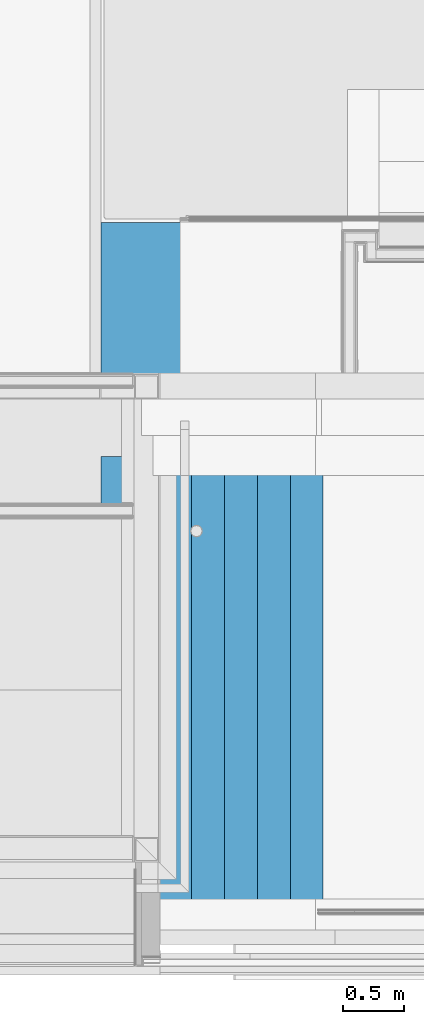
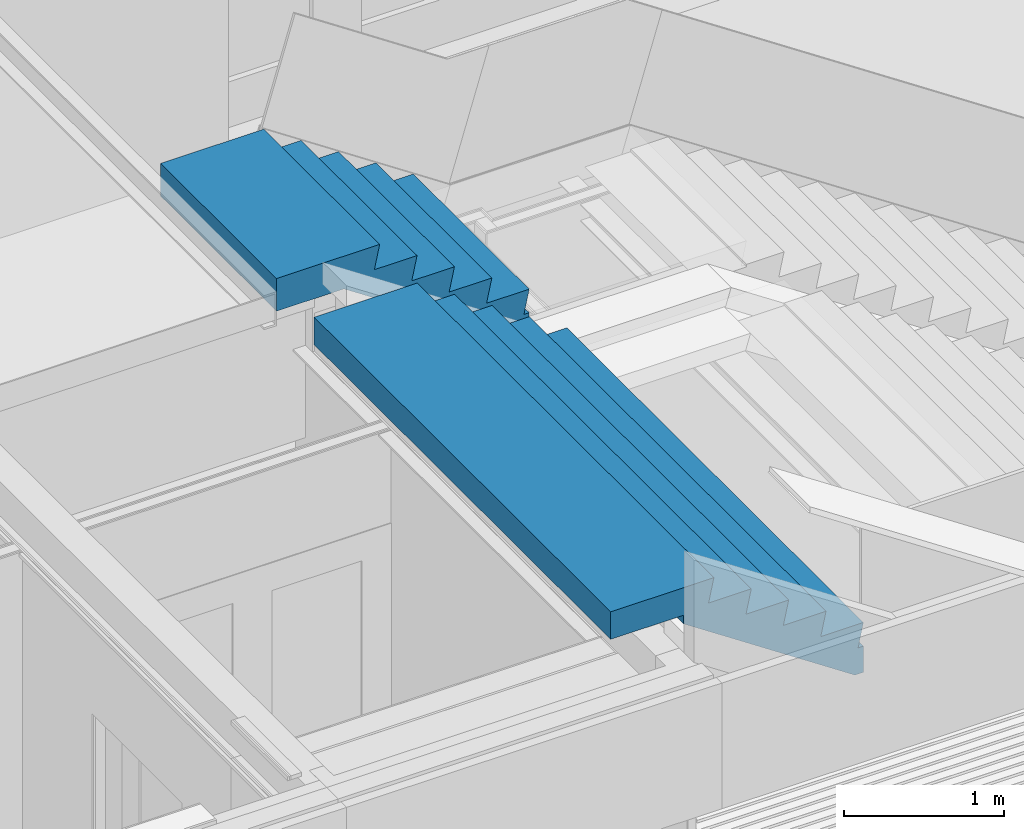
# One storey, part 27 of 165: 2 stair flights, 2 elements without a shape of their own.
"""IFC2X3 building model written with IfcOpenShell, lengths in millimetres."""

from ifc_helpers import new_model, entity, si_unit, converted_unit, derived_unit, money_unit, direction, frame, origin_with_axes, place, context, subcontext, project, spatial, faceted_brep, material, type_object, element, aggregate, save


model = new_model("IFC2X3")

# Units and contexts
model_context = context("Model", 3, precision=0.01, world=origin_with_axes(), true_north=direction((0.0, 1.0)))
body_context = subcontext(model_context, "Body", "Model", "MODEL_VIEW")
ifc_project = project(units=[si_unit("LENGTHUNIT", "METRE", prefix="MILLI"), si_unit("AREAUNIT", "SQUARE_METRE"), si_unit("VOLUMEUNIT", "CUBIC_METRE"), converted_unit("PLANEANGLEUNIT", "DEGREE", entity("IfcPlaneAngleMeasure", 0.0174532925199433), si_unit("PLANEANGLEUNIT", "RADIAN"), dimensions=[0, 0, 0, 0, 0, 0, 0]), money_unit("EUR"), converted_unit("TIMEUNIT", "Year", entity("IfcTimeMeasure", 31556926.0), si_unit("TIMEUNIT", "SECOND"), dimensions=[0, 0, 1, 0, 0, 0, 0]), si_unit("MASSUNIT", "GRAM", prefix="KILO"), si_unit("THERMODYNAMICTEMPERATUREUNIT", "DEGREE_CELSIUS"), si_unit("LUMINOUSINTENSITYUNIT", "LUMEN"), si_unit("ENERGYUNIT", "JOULE", prefix="MEGA"), derived_unit("THERMALCONDUCTANCEUNIT", [(si_unit("POWERUNIT", "WATT"), 1), (si_unit("LENGTHUNIT", "METRE"), -1), (si_unit("THERMODYNAMICTEMPERATUREUNIT", "KELVIN"), -1)]), derived_unit("SPECIFICHEATCAPACITYUNIT", [(si_unit("ENERGYUNIT", "JOULE"), 1), (si_unit("MASSUNIT", "GRAM", prefix="KILO"), -1), (si_unit("THERMODYNAMICTEMPERATUREUNIT", "KELVIN"), -1)]), derived_unit("MASSDENSITYUNIT", [(si_unit("MASSUNIT", "GRAM", prefix="KILO"), 1), (si_unit("VOLUMEUNIT", "CUBIC_METRE"), -1)])], contexts=[model_context])

# Site, building, storey
site_placement = place(None, origin_with_axes())
site = spatial("IfcSite", under=ifc_project, at=site_placement, Name="Site", CompositionType="ELEMENT")
building_placement = place(site_placement, origin_with_axes())
building = spatial("IfcBuilding", under=site, at=building_placement, Name="Naam gebouw", CompositionType="ELEMENT")
storey_placement = place(building_placement, origin_with_axes())
storey = spatial("IfcBuildingStorey", under=building, at=storey_placement, Name="Begane grond", CompositionType="ELEMENT", Elevation=0.0)

# Stair, stair flight
stair_1_placement = place(storey_placement, frame((18790.00009135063, 299.9999999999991, -10.00000000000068), z_axis=(0.0, 0.0, 1.0), x_axis=(1.0, 0.0, 0.0)))
stair_1 = element("IfcStair", 1, at=stair_1_placement, inside=storey, Name="24_Trap-x", ShapeType="NOTDEFINED")
ifc_material = material(Name="Beton gewapend prefab")
stair_flight_type = type_object("IfcStairFlightType", Name="IfcStairFlight", PredefinedType="NOTDEFINED")
stair_flight_1_placement = place(stair_1_placement, origin_with_axes())
stair_flight_1 = element("IfcStairFlight", 2, at=stair_flight_1_placement, type_object=stair_flight_type, material=ifc_material, Name="24_Trapconstructie-x", context=body_context, shape_type="Brep", body=[
    faceted_brep([(-7190.000091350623, 3709.999757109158, 3750.0), (-7715.00028672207, 3709.999772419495, 3750.0), (-7715.000178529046, 3709.999772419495, 3960.0), (-6970.000178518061, 3709.999750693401, 3960.0), (-7008.260522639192, 3709.99975180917, 3780.0), (-6700.00017851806, 3709.999742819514, 3780.0), (-6738.260522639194, 3709.999743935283, 3600.0), (-6430.000178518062, 3709.999734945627, 3600.0), (-6468.260522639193, 3709.99973703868, 3420.0), (-6160.000176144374, 3709.999727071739, 3420.0), (-6198.260520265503, 3709.999730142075, 3240.0), (-5890.000166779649, 3709.999727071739, 3239.999746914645), (-5928.2602940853, 3709.999730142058, 3060.0), (-5890.000166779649, 3709.999727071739, 3060.0), (-5890.00016677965, 3709.999769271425, 2860.0), (-5952.759896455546, 3709.999778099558, 2860.0), (-5980.000169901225, 3709.999778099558, 2878.160177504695), (-6025.000171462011, 3709.999778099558, 2908.160170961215), (-6070.000173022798, 3709.999778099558, 2938.160164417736), (-6115.000174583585, 3709.999778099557, 2968.160158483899), (-6160.000176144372, 3709.999750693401, 2998.160152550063), (-6205.000176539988, 3709.999752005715, 3028.160149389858), (-6250.000176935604, 3709.99975331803, 3058.160146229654), (-6295.000177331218, 3709.999754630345, 3088.160143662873), (-6340.000177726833, 3709.999755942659, 3118.160141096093), (-6385.000178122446, 3709.999757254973, 3148.160138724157), (-6430.000178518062, 3709.9997506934, 3178.160136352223), (-6475.000178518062, 3709.999752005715, 3208.160136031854), (-6520.000178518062, 3709.999753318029, 3238.160135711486), (-6565.000178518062, 3709.999754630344, 3268.160135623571), (-6610.000178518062, 3709.999755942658, 3298.160135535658), (-6655.000178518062, 3709.999757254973, 3328.160135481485), (-6700.00017851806, 3709.9997506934, 3358.160135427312), (-6745.000178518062, 3709.999752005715, 3388.160135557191), (-6790.00017851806, 3709.999753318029, 3418.160135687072), (-6835.000178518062, 3709.999754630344, 3448.160135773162), (-6880.000178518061, 3709.999755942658, 3478.160135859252), (-6925.000178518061, 3709.999757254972, 3508.160135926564), (-6970.000178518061, 3709.999750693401, 3538.160135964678), (-7060.000178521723, 3709.999753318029, 3598.16013604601), (-7150.000178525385, 3709.999755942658, 3658.160136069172), (-7190.000091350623, 3709.999757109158, 3684.826744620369), (-7190.000091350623, -0.0002428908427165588, 3750.0), (-7715.00028672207, -0.0002275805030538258, 3750.0), (-7715.000286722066, -0.0002275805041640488, 3960.0), (-6970.000286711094, -0.000249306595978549, 3960.0), (-7008.260630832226, -0.0002481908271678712, 3780.0), (-6700.000286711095, -0.0002571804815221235, 3780.0), (-6738.260630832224, -0.0002571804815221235, 3600.0), (-6430.000286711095, -0.000265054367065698, 3600.0), (-6468.260630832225, -0.000265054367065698, 3420.0), (-6160.000286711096, -0.0002729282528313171, 3420.0), (-6198.260628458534, -0.0002729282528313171, 3240.0), (-5890.000000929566, -0.0002808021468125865, 3240.0), (-5928.260183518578, -0.0002808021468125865, 3060.0), (-5890.000000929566, -0.0002808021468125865, 3060.0), (-5890.000000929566, -0.0002808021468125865, 2860.0), (-5952.759851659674, 2229.301360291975, 2860.0), (-5952.759864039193, 2717.364860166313, 2860.0), (-5952.759890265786, 3465.967981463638, 2860.0), (-5952.759780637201, -0.0002808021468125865, 2860.0), (-5952.759786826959, 244.0313573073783, 2860.0), (-5952.759813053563, 992.6347391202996, 2860.0), (-5952.759825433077, 1480.698108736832, 2860.0), (-5980.000157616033, 3091.666434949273, 2878.160179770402), (-6070.000176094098, 3091.666434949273, 2938.160169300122), (-6160.00019457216, 3091.666411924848, 2998.16016069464), (-6250.000195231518, 3091.666414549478, 3058.16015104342), (-6340.000195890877, 3091.666417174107, 3118.160143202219), (-6430.000196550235, 3091.666413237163, 3178.160135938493), (-6520.000196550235, 3091.666415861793, 3238.160135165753), (-6610.000196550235, 3091.666418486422, 3298.160135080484), (-6700.000196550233, 3091.666414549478, 3358.160135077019), (-6790.000196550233, 3091.666417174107, 3418.160135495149), (-6880.000196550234, 3091.666419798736, 3478.160135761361), (-6970.000196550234, 3091.666422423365, 3538.160135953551), (-6970.000232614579, 1854.99975013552, 3538.160135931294), (-6970.000268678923, 618.3330778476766, 3538.160135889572), (-6970.000286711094, -0.0002582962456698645, 3538.160135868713), (-7060.000286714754, -0.0002556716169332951, 3598.160136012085), (-7150.000286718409, -0.0002530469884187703, 3658.16013607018), (-7190.000091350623, -0.00025044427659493, 3684.826672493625), (-6925.000286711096, -0.0002596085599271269, 3508.160135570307), (-6880.000286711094, -0.0002609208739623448, 3478.160135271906), (-6835.000286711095, -0.0002622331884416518, 3448.160134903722), (-6790.000286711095, -0.0002635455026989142, 3418.160134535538), (-6745.000286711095, -0.0002648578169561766, 3388.160133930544), (-6700.000286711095, -0.000266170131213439, 3358.16013332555), (-6655.000286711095, -0.0002674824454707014, 3328.160133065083), (-6610.000286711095, -0.0002687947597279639, 3298.160132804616), (-6565.000286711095, -0.0002701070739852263, 3268.160132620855), (-6520.000286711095, -0.0002714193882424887, 3238.160132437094), (-6475.000286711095, -0.0002727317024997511, 3208.160133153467), (-6430.000286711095, -0.0002740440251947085, 3178.160133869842), (-6385.000286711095, -0.0002753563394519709, 3148.160143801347), (-6340.000286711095, -0.0002766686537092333, 3118.160153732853), (-6295.000286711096, -0.0002779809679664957, 3088.160164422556), (-6250.000286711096, -0.0002792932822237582, 3058.160175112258), (-6205.000286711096, -0.0002806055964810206, 3028.160188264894), (-6160.000286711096, -0.0002819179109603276, 2998.160201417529), (-6115.00023908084, -0.0002808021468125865, 2968.160197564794), (-6070.000191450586, -0.0002808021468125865, 2938.160193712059), (-6025.000143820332, -0.0002808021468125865, 2908.160192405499), (-5980.000096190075, -0.0002808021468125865, 2878.160191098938), (-5980.00013304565, 1854.999748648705, 2878.160184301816), (-5980.000108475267, 618.3330623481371, 2878.16018883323), (-6025.00016224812, 2473.33309179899, 2908.160178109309), (-6115.00019608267, 2473.333091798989, 2968.160171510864), (-6205.000213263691, 2473.333074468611, 3028.160162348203), (-6295.000213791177, 2473.33307709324, 3088.160150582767), (-6385.000214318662, 2473.333079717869, 3148.160140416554), (-6475.000214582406, 2473.333077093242, 3208.160135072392), (-6565.000214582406, 2473.333079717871, 3268.160134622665), (-6655.000214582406, 2473.3330823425, 3328.160134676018), (-6745.000214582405, 2473.333079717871, 3388.160135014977), (-6835.000214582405, 2473.3330823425, 3448.160135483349), (-6925.000214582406, 2473.333084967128, 3508.160135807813), (-6925.00025064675, 1236.666412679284, 3508.160135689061), (-6880.000268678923, 618.333075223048, 3478.160135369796), (-6790.000268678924, 618.3330725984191, 3418.160134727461), (-6700.000268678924, 618.3330699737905, 3358.160133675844), (-6610.000268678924, 618.3330686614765, 3298.16013325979), (-6520.000268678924, 618.3330660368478, 3238.160132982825), (-6430.000268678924, 618.3330634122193, 3178.160134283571), (-6340.000268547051, 618.3330620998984, 3118.160151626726), (-6250.00026841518, 618.3330594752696, 3058.16017029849), (-6160.000268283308, 618.3330568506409, 2998.160193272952), (-6070.000188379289, 618.3330623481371, 2938.160188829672), (-6025.000153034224, 1236.666405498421, 2908.160185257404), (-6070.000182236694, 1854.999748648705, 2938.160179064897), (-6160.000231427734, 1854.999734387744, 2998.160176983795), (-6250.00023182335, 1854.999737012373, 3058.160160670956), (-6340.000232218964, 1854.999739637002, 3118.160147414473), (-6430.000232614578, 1854.999738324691, 3178.160135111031), (-6520.000232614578, 1854.99974094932, 3238.160134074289), (-6610.000232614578, 1854.999743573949, 3298.160134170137), (-6700.000232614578, 1854.999742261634, 3358.160134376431), (-6790.000232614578, 1854.999744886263, 3418.160135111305), (-6880.000232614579, 1854.999747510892, 3478.160135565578), (-6835.000250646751, 1236.666410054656, 3448.160135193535), (-6745.000250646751, 1236.666407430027, 3388.16013447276), (-6655.000250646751, 1236.666407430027, 3328.16013387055), (-6565.000250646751, 1236.666404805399, 3268.16013362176), (-6475.000250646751, 1236.66640218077, 3208.160134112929), (-6385.00025051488, 1236.666402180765, 3148.160142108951), (-6295.000250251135, 1236.666399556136, 3088.160157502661), (-6205.000249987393, 1236.666396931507, 3028.160175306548), (-6115.000217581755, 1236.666405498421, 2968.160184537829)], [[[0, 1, 2, 3, 4, 5, 6, 7, 8, 9, 10, 11, 12, 13, 14, 15, 16, 17, 18, 19, 20, 21, 22, 23, 24, 25, 26, 27, 28, 29, 30, 31, 32, 33, 34, 35, 36, 37, 38, 39, 40, 41]], [[1, 0, 42, 43]], [[1, 43, 44, 2]], [[2, 44, 45, 3]], [[4, 3, 45, 46]], [[5, 4, 46, 47]], [[48, 6, 5, 47]], [[7, 6, 48, 49]], [[50, 8, 7, 49]], [[9, 8, 50, 51]], [[52, 10, 9, 51]], [[11, 10, 52, 53]], [[54, 12, 11, 53]], [[54, 55, 13, 12]], [[14, 13, 55, 56]], [[57, 58, 59, 15, 14, 56, 60, 61, 62, 63]], [[16, 15, 59, 64]], [[64, 17, 16]], [[65, 18, 17]], [[65, 19, 18]], [[66, 20, 19]], [[66, 21, 20]], [[67, 22, 21]], [[67, 23, 22]], [[68, 24, 23]], [[68, 25, 24]], [[69, 26, 25]], [[69, 27, 26]], [[70, 28, 27]], [[70, 29, 28]], [[71, 30, 29]], [[71, 31, 30]], [[72, 32, 31]], [[72, 33, 32]], [[73, 34, 33]], [[73, 35, 34]], [[74, 36, 35]], [[74, 37, 36]], [[75, 38, 37]], [[76, 77, 78, 79, 39, 38, 75]], [[40, 39, 79, 80]], [[81, 41, 40, 80]], [[0, 41, 81, 42]], [[42, 81, 80, 79, 78, 82, 83, 84, 85, 86, 87, 88, 89, 90, 91, 92, 93, 94, 95, 96, 97, 98, 99, 100, 101, 102, 103, 60, 56, 55, 54, 53, 52, 51, 50, 49, 48, 47, 46, 45, 44, 43]], [[57, 104, 64, 58]], [[59, 58, 64]], [[60, 103, 105, 61]], [[62, 61, 105]], [[104, 63, 62, 105]], [[57, 63, 104]], [[64, 106, 65, 17]], [[19, 65, 107, 66]], [[66, 108, 67, 21]], [[67, 109, 68, 23]], [[25, 68, 110, 69]], [[27, 69, 111, 70]], [[70, 112, 71, 29]], [[31, 71, 113, 72]], [[72, 114, 73, 33]], [[73, 115, 74, 35]], [[37, 74, 116, 75]], [[77, 76, 117]], [[77, 82, 78]], [[75, 116, 76]], [[118, 83, 82]], [[118, 84, 83]], [[119, 85, 84]], [[119, 86, 85]], [[120, 87, 86]], [[120, 88, 87]], [[121, 89, 88]], [[121, 90, 89]], [[122, 91, 90]], [[122, 92, 91]], [[123, 93, 92]], [[123, 94, 93]], [[124, 95, 94]], [[124, 96, 95]], [[125, 97, 96]], [[125, 98, 97]], [[126, 99, 98]], [[126, 100, 99]], [[127, 101, 100]], [[127, 102, 101]], [[105, 103, 102]], [[106, 64, 104]], [[128, 104, 105]], [[129, 65, 106]], [[107, 65, 129]], [[66, 107, 130]], [[108, 66, 130]], [[131, 67, 108]], [[131, 109, 67]], [[132, 68, 109]], [[132, 110, 68]], [[69, 110, 133]], [[111, 69, 133]], [[134, 70, 111]], [[112, 70, 134]], [[71, 112, 135]], [[113, 71, 135]], [[72, 113, 136]], [[114, 72, 136]], [[137, 73, 114]], [[115, 73, 137]], [[74, 115, 138]], [[138, 116, 74]], [[138, 117, 76, 116]], [[117, 118, 82, 77]], [[139, 119, 84, 118]], [[120, 86, 119, 140]], [[141, 121, 88, 120]], [[142, 122, 90, 121]], [[123, 92, 122, 143]], [[144, 124, 94, 123]], [[145, 125, 96, 124]], [[126, 98, 125, 146]], [[127, 100, 126, 147]], [[105, 102, 127, 128]], [[106, 104, 128, 129]], [[129, 147, 130, 107]], [[130, 146, 131, 108]], [[131, 145, 132, 109]], [[132, 144, 133, 110]], [[111, 133, 143, 134]], [[134, 142, 135, 112]], [[113, 135, 141, 136]], [[114, 136, 140, 137]], [[137, 139, 138, 115]], [[117, 138, 118]], [[139, 137, 119]], [[118, 138, 139]], [[137, 140, 119]], [[120, 140, 136]], [[121, 141, 135]], [[120, 136, 141]], [[142, 134, 122]], [[121, 135, 142]], [[122, 134, 143]], [[123, 143, 133]], [[144, 132, 124]], [[133, 144, 123]], [[145, 131, 125]], [[132, 145, 124]], [[131, 146, 125]], [[126, 146, 130]], [[126, 130, 147]], [[127, 147, 129]], [[127, 129, 128]]]),
])
aggregate(stair_1, [stair_flight_1])

stair_2_placement = place(storey_placement, frame((18790.00009135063, 4480.000241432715, 0.0), z_axis=(0.0, 0.0, 1.0), x_axis=(1.0, 0.0, 0.0)))
stair_2 = element("IfcStair", 3, at=stair_2_placement, inside=storey, Name="24_Trap-x", ShapeType="NOTDEFINED")
stair_flight_2_placement = place(stair_2_placement, origin_with_axes())
stair_flight_2 = element("IfcStairFlight", 4, at=stair_flight_2_placement, type_object=stair_flight_type, material=ifc_material, Name="24_Trapconstructie-x", context=body_context, shape_type="Brep", body=[
    faceted_brep([(-7150.000054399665, 1449.999755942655, 3658.160136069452), (-7150.000096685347, -0.0002530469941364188, 3658.160136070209), (-7227.759892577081, -0.0002479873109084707, 3710.0), (-7227.759850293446, 1449.999758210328, 3710.0), (-7060.000054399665, 1449.999753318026, 3598.160136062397), (-7060.000096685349, -0.0002556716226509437, 3598.160136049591), (-7715.000096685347, -0.0002275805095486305, 3960.0), (-7715.000096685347, -0.0002275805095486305, 3710.0), (-6970.000096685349, -0.0002582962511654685, 3538.16013595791), (-6880.000096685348, -0.0002609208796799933, 3478.160135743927), (-6790.000096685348, -0.0002635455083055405, 3418.160135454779), (-6700.000096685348, -0.0002661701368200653, 3358.160135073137), (-6610.000096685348, -0.0002687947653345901, 3298.16013490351), (-6520.000096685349, -0.0002714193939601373, 3238.160134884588), (-6430.000096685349, -0.0002740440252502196, 3178.160135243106), (-6385.000096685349, -0.0002753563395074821, 3148.160138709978), (-6340.000096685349, -0.0002766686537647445, 3118.160142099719), (-6295.000096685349, -0.0002779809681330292, 3088.16014574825), (-6250.000096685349, -0.0002792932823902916, 3058.160149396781), (-6205.000096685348, -0.000280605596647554, 3028.160153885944), (-6160.000096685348, -0.0002819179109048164, 2998.160158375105), (-6115.00007980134, -0.0002808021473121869, 2968.160156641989), (-6070.000062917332, -0.0002808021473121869, 2938.160154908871), (-6025.000046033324, -0.0002808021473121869, 2908.160154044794), (-5980.000029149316, -0.0002808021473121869, 2878.16015318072), (-5952.759789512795, -0.0002808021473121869, 2860.0), (-5889.9999953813, -0.0002808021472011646, 2860.0), (-5889.9999953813, -0.0002808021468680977, 3060.0), (-5928.260182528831, -0.0002808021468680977, 3060.0), (-5889.9999953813, -0.0002808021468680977, 3240.0), (-6198.260325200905, -0.0002729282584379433, 3240.0), (-6160.000096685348, -0.0002729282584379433, 3420.0), (-6468.260326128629, -0.0002650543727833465, 3420.0), (-6430.000096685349, -0.0002650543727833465, 3600.0), (-6738.260326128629, -0.0002571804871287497, 3600.0), (-6700.000096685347, -0.0002571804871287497, 3780.0), (-7008.260326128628, -0.0002481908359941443, 3780.0), (-6970.000096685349, -0.000249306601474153, 3960.0), (-7715.000054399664, 1449.99977241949, 3710.0), (-7715.000054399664, 1449.99977241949, 3960.0), (-6970.000054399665, 1449.999750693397, 3960.0), (-7008.260283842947, 1449.999751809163, 3780.0), (-6700.000054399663, 1449.999742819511, 3780.0), (-6738.260283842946, 1449.999743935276, 3600.0), (-6430.000054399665, 1449.999734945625, 3600.0), (-6468.260283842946, 1449.999737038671, 3420.0), (-6160.000053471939, 1449.999727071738, 3420.0), (-6198.260282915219, 1449.999728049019, 3240.0), (-5890.000060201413, 1449.999727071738, 3239.999926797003), (-5928.26022574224, 1449.999728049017, 3060.0), (-5890.000060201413, 1449.999727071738, 3060.0), (-5890.000060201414, 1449.999738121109, 2860.0), (-5952.759834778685, 1449.999740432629, 2860.0), (-5980.000057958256, 1449.999740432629, 2878.160147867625), (-6025.000056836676, 1449.999740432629, 2908.160145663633), (-6070.000055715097, 1449.999740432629, 2938.160143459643), (-6115.000054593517, 1449.999740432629, 2968.160141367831), (-6160.000053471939, 1449.99973382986, 2998.16013927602), (-6205.00005362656, 1449.999735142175, 3028.160138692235), (-6250.000053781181, 1449.999736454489, 3058.160138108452), (-6295.000053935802, 1449.999737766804, 3088.160137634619), (-6340.000054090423, 1449.999739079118, 3118.160137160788), (-6385.000054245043, 1449.999740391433, 3148.160136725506), (-6430.000054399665, 1449.999734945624, 3178.160136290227), (-6520.000054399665, 1449.999737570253, 3238.160136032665), (-6610.000054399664, 1449.999740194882, 3298.160135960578), (-6700.000054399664, 1449.999742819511, 3358.160135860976), (-6790.000054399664, 1449.999753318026, 3418.160135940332), (-6880.000054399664, 1449.999755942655, 3478.160135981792), (-6970.000054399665, 1449.999750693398, 3538.16013603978), (-6430.000086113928, 362.4997298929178, 3178.160135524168), (-6430.000064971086, 1087.499737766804, 3178.160136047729), (-6340.000086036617, 362.4997272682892, 3118.160140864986), (-6250.000085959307, 362.4997246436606, 3058.160146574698), (-6160.000085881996, 362.499722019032, 2998.160153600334), (-6070.000061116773, 362.4997245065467, 2938.160152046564), (-5980.000036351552, 362.4997245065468, 2878.160151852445), (-5952.759793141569, 143.064546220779, 2860.0), (-5952.759815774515, 868.0645792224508, 2860.0), (-5952.759831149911, 1306.934881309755, 2860.0), (-5952.759808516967, 581.934893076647, 2860.0), (-5980.00005075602, 1087.499735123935, 2878.160149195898), (-6070.000057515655, 1087.499735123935, 2938.160146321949), (-6160.000064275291, 1087.499729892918, 2998.160144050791), (-6250.000064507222, 1087.499732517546, 3058.160140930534), (-6340.000064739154, 1087.499735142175, 3118.160138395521), (-6385.000075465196, 724.9997325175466, 3148.160137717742), (-6295.000075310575, 724.9997298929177, 3088.160141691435), (-6205.000075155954, 724.9997272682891, 3028.160146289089), (-6115.000067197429, 724.9997298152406, 2968.160149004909), (-6025.000051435, 724.9997298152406, 2908.160149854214)], [[[0, 1, 2, 3]], [[4, 5, 1, 0]], [[6, 7, 2, 1, 5, 8, 9, 10, 11, 12, 13, 14, 15, 16, 17, 18, 19, 20, 21, 22, 23, 24, 25, 26, 27, 28, 29, 30, 31, 32, 33, 34, 35, 36, 37]], [[7, 38, 3, 2]], [[4, 0, 3, 38, 39, 40, 41, 42, 43, 44, 45, 46, 47, 48, 49, 50, 51, 52, 53, 54, 55, 56, 57, 58, 59, 60, 61, 62, 63, 64, 65, 66, 67, 68, 69]], [[69, 8, 5, 4]], [[6, 39, 38, 7]], [[68, 9, 8, 69]], [[67, 10, 9, 68]], [[66, 11, 10, 67]], [[65, 12, 11, 66]], [[64, 13, 12, 65]], [[70, 14, 13, 64, 63, 71]], [[15, 14, 70]], [[16, 15, 72]], [[17, 16, 72]], [[18, 17, 73]], [[19, 18, 73]], [[20, 19, 74]], [[21, 20, 74]], [[22, 21, 75]], [[23, 22, 75]], [[24, 23, 76]], [[24, 76, 77, 25]], [[78, 79, 52, 51, 26, 25, 77, 80]], [[50, 27, 26, 51]], [[27, 50, 49, 28]], [[49, 48, 29, 28]], [[47, 30, 29, 48]], [[47, 46, 31, 30]], [[45, 32, 31, 46]], [[45, 44, 33, 32]], [[43, 34, 33, 44]], [[43, 42, 35, 34]], [[41, 36, 35, 42]], [[40, 37, 36, 41]], [[6, 37, 40, 39]], [[52, 79, 81, 53]], [[54, 53, 81]], [[55, 54, 82]], [[56, 55, 82]], [[57, 56, 83]], [[58, 57, 83]], [[59, 58, 84]], [[60, 59, 84]], [[61, 60, 85]], [[62, 61, 85]], [[63, 62, 71]], [[71, 86, 70]], [[72, 15, 70, 86]], [[17, 72, 87, 73]], [[74, 19, 73, 88]], [[21, 74, 89, 75]], [[23, 75, 90, 76]], [[77, 76, 80]], [[78, 81, 79]], [[78, 80, 76, 81]], [[81, 90, 82, 54]], [[82, 89, 83, 56]], [[83, 88, 84, 58]], [[87, 85, 60, 84]], [[85, 86, 71, 62]], [[85, 72, 86]], [[85, 87, 72]], [[84, 73, 87]], [[88, 73, 84]], [[83, 74, 88]], [[83, 89, 74]], [[89, 82, 75]], [[90, 75, 82]], [[81, 76, 90]]]),
])
aggregate(stair_2, [stair_flight_2])

save(model, "model.ifc")
